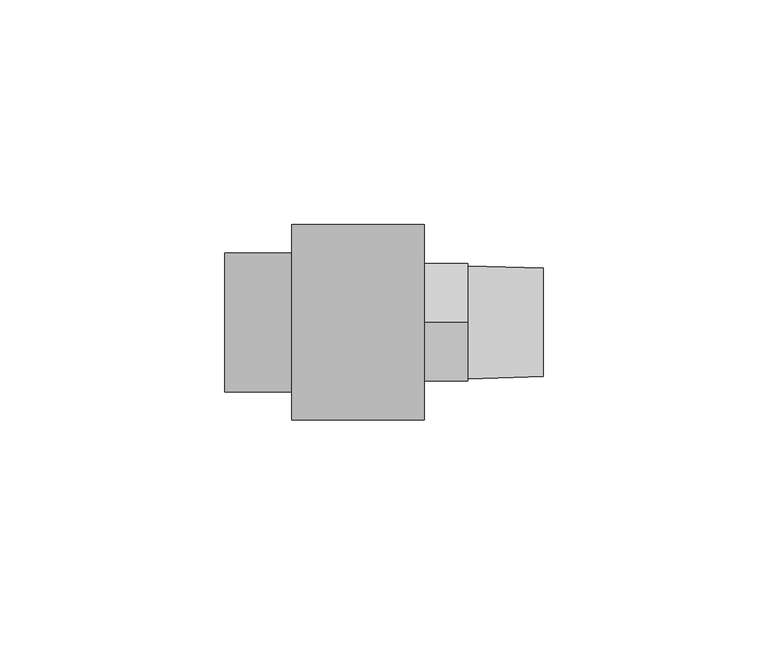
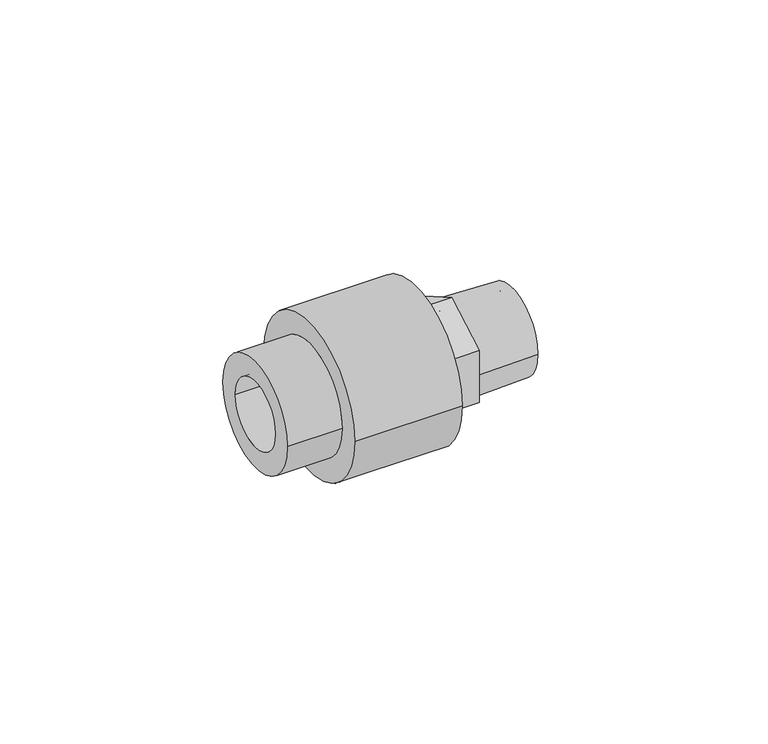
"""IFC4 building model written with IfcOpenShell, lengths in millimetres: pipe fitting geometry, Aquatherm - Fusion Outlet Transition Male : POTABLE BRASS - HEX."""

from ifc_helpers import new_model, si_unit, frame, origin, place, context, project, spatial, polyline, circle_curve, source, transform, mapped, element, save
from ifc_brep_helpers import plane_surface, cylinder_surface, revolved_surface, advanced_brep


def pipe_fitting_cc26525b(model_context):
    return source(origin(), model_context, "Body", "AdvancedBrep", [
        advanced_brep(
        [(9.1241563, 15.494, 0.0), (9.1241563, -15.494, 0.0), (9.1241563, 9.525, 0.0), (9.1241563, -9.525, 0.0), (29.4441563, 15.494, 0.0), (29.4441563, -15.494, 0.0), (29.4441563, 0.0, -15.1046377), (29.4441563, -13.081, -7.5523189), (29.4441563, -13.081, 7.5523189), (29.4441563, 0.0, 15.1046377), (29.4441563, 13.081, 7.5523189), (29.4441563, 13.081, -7.5523189), (29.4441563, 9.525, 0.0), (29.4441563, -9.525, 0.0), (39.0961563, 0.0, -15.1046377), (39.0961563, 13.081, -7.5523189), (39.0961563, 13.081, 7.5523189), (39.0961563, 0.0, 15.1046377), (39.0961563, -13.081, 7.5523189), (39.0961563, -13.081, -7.5523189), (39.0961563, 12.5560449, 0.0), (39.0961563, -12.5560449, 0.0), (39.0961563, 9.525, 0.0), (39.0961563, -9.525, 0.0), (55.8601563, -9.525, 0.0), (55.8601563, 9.525, 0.0), (55.8601563, -12.0502051, 0.0), (55.8601563, 12.0502051, 0.0)],
        [
            (0, 1, circle_curve(frame((9.1241563, 0.0, 0.0), z_axis=(-1.0, 0.0, 0.0), x_axis=(0.0, -1.0, 0.0)), 15.494)),
            (1, 0, circle_curve(frame((9.1241563, 0.0, 0.0), z_axis=(-1.0, 0.0, 0.0), x_axis=(0.0, -1.0, 0.0)), 15.494)),
            (2, 3, circle_curve(frame((9.1241563, 0.0, 0.0), z_axis=(1.0, 0.0, 0.0), x_axis=(0.0, -1.0, 0.0)), 9.525)),
            (3, 2, circle_curve(frame((9.1241563, 0.0, 0.0), z_axis=(1.0, 0.0, 0.0), x_axis=(0.0, -1.0, 0.0)), 9.525)),
            (4, 5, circle_curve(frame((29.4441563, 0.0, 0.0), z_axis=(1.0, 0.0, 0.0), x_axis=(0.0, -1.0, 0.0)), 15.494)),
            (5, 4, circle_curve(frame((29.4441563, 0.0, 0.0), z_axis=(1.0, 0.0, 0.0), x_axis=(0.0, -1.0, 0.0)), 15.494)),
            (6, 7),
            (7, 8),
            (8, 9),
            (9, 10),
            (10, 11),
            (11, 6),
            (0, 4),
            (5, 1),
            (2, 12),
            (12, 13, circle_curve(frame((29.4441563, 0.0, 0.0), z_axis=(1.0, 0.0, 0.0), x_axis=(0.0, -1.0, 0.0)), 9.525)),
            (13, 3),
            (13, 12, circle_curve(frame((29.4441563, 0.0, 0.0), z_axis=(1.0, 0.0, 0.0), x_axis=(0.0, -1.0, 0.0)), 9.525)),
            (14, 15),
            (15, 16),
            (16, 17),
            (17, 18),
            (18, 19),
            (19, 14),
            (20, 21, circle_curve(frame((39.0961563, 0.0, 0.0), z_axis=(-1.0, 0.0, 0.0), x_axis=(0.0, -1.0, 0.0)), 12.5560449)),
            (21, 20, circle_curve(frame((39.0961563, 0.0, 0.0), z_axis=(-1.0, 0.0, 0.0), x_axis=(0.0, -1.0, 0.0)), 12.5560449)),
            (19, 7),
            (6, 14),
            (18, 8),
            (17, 9),
            (16, 10),
            (15, 11),
            (12, 22),
            (22, 23, circle_curve(frame((39.0961563, 0.0, 0.0), z_axis=(1.0, 0.0, 0.0), x_axis=(0.0, -1.0, 0.0)), 9.525)),
            (23, 13),
            (23, 22, circle_curve(frame((39.0961563, 0.0, 0.0), z_axis=(1.0, 0.0, 0.0), x_axis=(0.0, -1.0, 0.0)), 9.525)),
            (23, 24),
            (24, 25, circle_curve(frame((55.8601563, 0.0, 0.0), z_axis=(1.0, 0.0, 0.0), x_axis=(0.0, -1.0, 0.0)), 9.525)),
            (25, 22),
            (25, 24, circle_curve(frame((55.8601563, 0.0, 0.0), z_axis=(1.0, 0.0, 0.0), x_axis=(0.0, -1.0, 0.0)), 9.525)),
            (24, 26),
            (26, 27, circle_curve(frame((55.8601563, 0.0, 0.0), z_axis=(1.0, 0.0, 0.0), x_axis=(0.0, -1.0, 0.0)), 12.0502051)),
            (27, 25),
            (27, 26, circle_curve(frame((55.8601563, 0.0, 0.0), z_axis=(1.0, 0.0, 0.0), x_axis=(0.0, -1.0, 0.0)), 12.0502051)),
            (26, 21),
            (20, 27),
        ],
        [
            plane_surface(frame((9.1241563, -15.494, 0.0), z_axis=(-1.0, 0.0, 0.0), x_axis=(0.0, 0.0, 1.0))),
            plane_surface(frame((29.4441563, -15.494, 0.0), z_axis=(1.0, 0.0, 0.0), x_axis=(0.0, 0.0, -1.0))),
            cylinder_surface(frame((29.4441563, 0.0, 0.0), z_axis=(-1.0, 0.0, 0.0), x_axis=(0.0, -1.0, 0.0)), 15.494),
            revolved_surface(polyline([(29.444156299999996, -9.525, 0.0), (9.1241563, -9.525, 0.0)]), (11.9969372, 0.0, 0.0), (1.0, 0.0, 0.0)),
            plane_surface(frame((39.0961563, 0.0, -15.1046377), z_axis=(1.0000000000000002, 0.0, 0.0), x_axis=(0.0, 0.8660254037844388, -0.49999999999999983))),
            plane_surface(frame((29.4441563, 0.0, -15.1046377), z_axis=(0.0, -0.49999999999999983, -0.8660254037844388), x_axis=(1.0, 0.0, 0.0))),
            plane_surface(frame((29.4441563, -13.081, -7.5523189), z_axis=(0.0, -1.0, 0.0), x_axis=(1.0, 0.0, 0.0))),
            plane_surface(frame((29.4441563, -13.081, 7.5523189), z_axis=(0.0, -0.4999999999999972, 0.8660254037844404), x_axis=(1.0, 0.0, 0.0))),
            plane_surface(frame((29.4441563, 0.0, 15.1046377), z_axis=(0.0, 0.500000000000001, 0.8660254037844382), x_axis=(1.0, 0.0, 0.0))),
            plane_surface(frame((29.4441563, 13.081, 7.5523189), z_axis=(0.0, 1.0, 0.0), x_axis=(1.0, 0.0, 0.0))),
            plane_surface(frame((29.4441563, 13.081, -7.5523189), z_axis=(0.0, 0.49999999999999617, -0.8660254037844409), x_axis=(1.0, 0.0, 0.0))),
            revolved_surface(polyline([(39.0961563, -9.525, 0.0), (29.4441563, -9.525, 0.0)]), (29.4441563, 0.0, 0.0), (1.0, 0.0, 0.0)),
            revolved_surface(polyline([(55.8601563, -9.525, 0.0), (39.0961563, -9.525, 0.0)]), (90.7332251, 0.0, 0.0), (1.0, 0.0, 0.0)),
            plane_surface(frame((55.8601563, 0.0, 0.0), z_axis=(1.0, 0.0, 0.0), x_axis=(0.0, -1.0, 0.0))),
            revolved_surface(polyline([(39.0961563, -12.5560449, 0.0), (55.8601563, -12.0502051, 0.0)]), (90.7332251, 0.0, 0.0), (1.0, 0.0, 0.0)),
        ],
        [
            (0, [[1, 2], [3, 4]]),
            (1, [[5, 6], [7, 8, 9, 10, 11, 12]]),
            (2, [[-1, 13, -6, 14]]),
            (2, [[-2, -14, -5, -13]]),
            (3, [[-3, 15, 16, 17]]),
            (3, [[-4, -17, 18, -15]]),
            (4, [[19, 20, 21, 22, 23, 24], [25, 26]]),
            (5, [[-24, 27, -7, 28]]),
            (6, [[-23, 29, -8, -27]]),
            (7, [[-22, 30, -9, -29]]),
            (8, [[-21, 31, -10, -30]]),
            (9, [[-20, 32, -11, -31]]),
            (10, [[-19, -28, -12, -32]]),
            (11, [[33, 34, 35, -16]]),
            (11, [[-33, -18, -35, 36]]),
            (12, [[37, 38, 39, -36]]),
            (12, [[-37, -34, -39, 40]]),
            (13, [[-38, 41, 42, 43]]),
            (13, [[-40, -43, 44, -41]]),
            (14, [[-42, 45, -25, 46]]),
            (14, [[-44, -46, -26, -45]]),
        ],
    ),
        advanced_brep(
        [(9.128125, 15.478125, 0.0), (9.128125, -15.478125, 0.0), (9.128125, 9.525, 0.0), (9.128125, -9.525, 0.0), (-14.8967568, -9.525, 0.0), (-14.8967568, 9.525, 0.0), (-14.8967568, -15.478125, 0.0), (-14.8967568, 15.478125, 0.0), (0.0, 15.478125, 0.0), (0.0, -15.478125, 0.0), (29.4441562, 21.7289063, 0.0), (29.4441562, -21.7289063, 0.0), (29.4441562, 15.478125, 0.0), (29.4441562, -15.478125, 0.0), (0.0, -21.7289063, 0.0), (0.0, 21.7289063, 0.0)],
        [
            (0, 1, circle_curve(frame((9.128125, 0.0, 0.0), z_axis=(1.0, 0.0, 0.0), x_axis=(0.0, -1.0, 0.0)), 15.478125)),
            (1, 0, circle_curve(frame((9.128125, 0.0, 0.0), z_axis=(1.0, 0.0, 0.0), x_axis=(0.0, -1.0, 0.0)), 15.478125)),
            (2, 3, circle_curve(frame((9.128125, 0.0, 0.0), z_axis=(-1.0, 0.0, 0.0), x_axis=(0.0, -1.0, 0.0)), 9.525)),
            (3, 2, circle_curve(frame((9.128125, 0.0, 0.0), z_axis=(-1.0, 0.0, 0.0), x_axis=(0.0, -1.0, 0.0)), 9.525)),
            (4, 5, circle_curve(frame((-14.8967568, 0.0, 0.0), z_axis=(-1.0, 0.0, 0.0), x_axis=(0.0, -1.0, 0.0)), 9.525)),
            (5, 2),
            (3, 4),
            (5, 4, circle_curve(frame((-14.8967568, 0.0, 0.0), z_axis=(-1.0, 0.0, 0.0), x_axis=(0.0, -1.0, 0.0)), 9.525)),
            (6, 7, circle_curve(frame((-14.8967568, 0.0, 0.0), z_axis=(1.0, 0.0, 0.0), x_axis=(0.0, -1.0, 0.0)), 15.478125)),
            (7, 8),
            (8, 9, circle_curve(frame((0.0, 0.0, 0.0), z_axis=(-1.0, 0.0, 0.0), x_axis=(0.0, -1.0, 0.0)), 15.478125)),
            (9, 6),
            (7, 6, circle_curve(frame((-14.8967568, 0.0, 0.0), z_axis=(1.0, 0.0, 0.0), x_axis=(0.0, -1.0, 0.0)), 15.478125)),
            (9, 8, circle_curve(frame((0.0, 0.0, 0.0), z_axis=(-1.0, 0.0, 0.0), x_axis=(0.0, -1.0, 0.0)), 15.478125)),
            (10, 11, circle_curve(frame((29.4441562, 0.0, 0.0), z_axis=(1.0, 0.0, 0.0), x_axis=(0.0, -1.0, 0.0)), 21.7289063)),
            (11, 10, circle_curve(frame((29.4441562, 0.0, 0.0), z_axis=(1.0, 0.0, 0.0), x_axis=(0.0, -1.0, 0.0)), 21.7289063)),
            (12, 13, circle_curve(frame((29.4441562, 0.0, 0.0), z_axis=(-1.0, 0.0, 0.0), x_axis=(0.0, -1.0, 0.0)), 15.478125)),
            (13, 12, circle_curve(frame((29.4441562, 0.0, 0.0), z_axis=(-1.0, 0.0, 0.0), x_axis=(0.0, -1.0, 0.0)), 15.478125)),
            (13, 1),
            (0, 12),
            (11, 14),
            (14, 15, circle_curve(frame((0.0, 0.0, 0.0), z_axis=(1.0, 0.0, 0.0), x_axis=(0.0, -1.0, 0.0)), 21.7289063)),
            (15, 10),
            (15, 14, circle_curve(frame((0.0, 0.0, 0.0), z_axis=(1.0, 0.0, 0.0), x_axis=(0.0, -1.0, 0.0)), 21.7289063)),
        ],
        [
            plane_surface(frame((9.128125, -9.525, 0.0), z_axis=(1.0, 0.0, 0.0), x_axis=(0.0, 0.0, 1.0))),
            revolved_surface(polyline([(9.128125, -9.525, 0.0), (-14.896756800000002, -9.525, 0.0)]), (9.128125, 0.0, 0.0), (1.0, 0.0, 0.0)),
            cylinder_surface(frame((0.0, 0.0, 0.0), z_axis=(-1.0, 0.0, 0.0), x_axis=(0.0, -1.0, 0.0)), 15.478125),
            plane_surface(frame((29.4441562, -15.478125, 0.0), z_axis=(1.0, 0.0, 0.0), x_axis=(0.0, 0.0, 1.0))),
            revolved_surface(polyline([(29.4441562, -15.478125, 0.0), (9.128125, -15.478125, 0.0)]), (29.4441562, 0.0, 0.0), (1.0, 0.0, 0.0)),
            cylinder_surface(frame((0.0, 0.0, 0.0), z_axis=(-1.0, 0.0, 0.0), x_axis=(0.0, -1.0, 0.0)), 21.7289063),
            plane_surface(frame((-14.8967568, -9.525, 0.0), z_axis=(-1.0, 0.0, 0.0), x_axis=(0.0, 0.0, -1.0))),
            plane_surface(frame((0.0, -15.478125, 0.0), z_axis=(-1.0, 0.0, 0.0), x_axis=(0.0, 0.0, -1.0))),
        ],
        [
            (0, [[1, 2], [3, 4]]),
            (1, [[5, 6, -4, 7]]),
            (1, [[8, -7, -3, -6]]),
            (2, [[9, 10, 11, 12]]),
            (2, [[13, -12, 14, -10]]),
            (3, [[15, 16], [17, 18]]),
            (4, [[-18, 19, -1, 20]]),
            (4, [[-17, -20, -2, -19]]),
            (5, [[-16, 21, 22, 23]]),
            (5, [[-15, -23, 24, -21]]),
            (6, [[-9, -13], [-5, -8]]),
            (7, [[-22, -24], [-11, -14]]),
        ],
    ),
    ])


if __name__ == "__main__":
    model = new_model("IFC4")
    model_context = context("Model", 3, world=origin())
    ifc_project = project(units=[si_unit("LENGTHUNIT", "METRE", prefix="MILLI")], contexts=[model_context])
    site = spatial("IfcSite", under=ifc_project)
    building = spatial("IfcBuilding", under=site)
    placement = place(None, origin())
    pipe_fitting_shape = pipe_fitting_cc26525b(model_context)
    element("IfcPipeFitting", 1, ObjectType="Aquatherm - Fusion Outlet Transition Male : POTABLE BRASS - HEX", at=placement, inside=building, context=model_context, shape_type="MappedRepresentation", body=[
        mapped(pipe_fitting_shape, transform((0.0, 0.0, 0.0), x_axis=(1.0, 0.0, 0.0), y_axis=(0.0, 1.0, 0.0), z_axis=(0.0, 0.0, 1.0))),
    ])
    save(model, "model.ifc")
